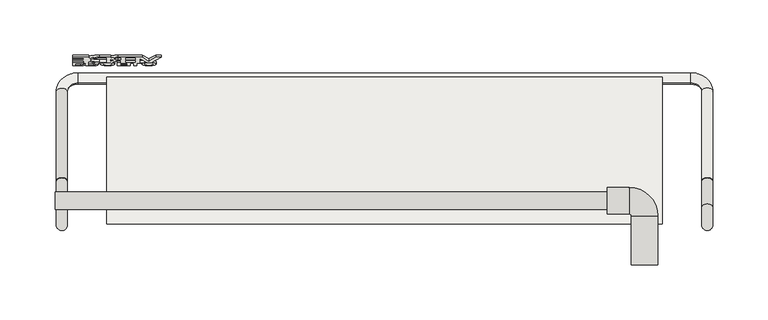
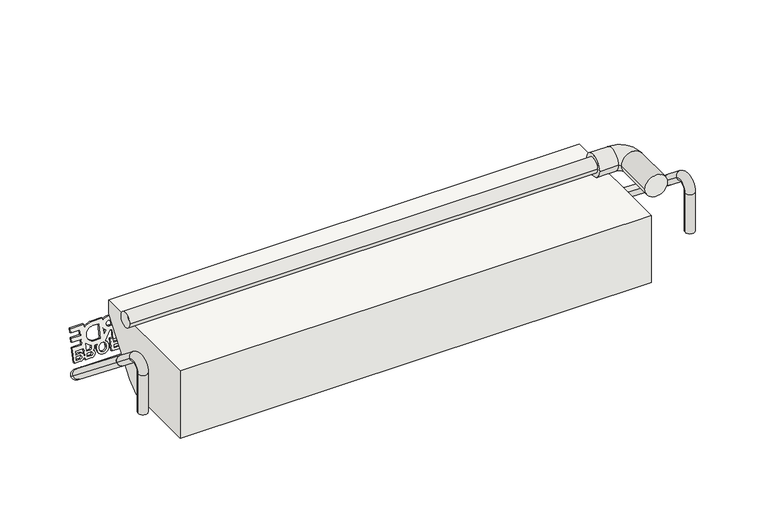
"""IFC4 building model written with IfcOpenShell, lengths in millimetres: covering geometry, panel VP Modulo prova ultima texture : panel VP Modulo prova ultima texture."""

import ifcopenshell
import ifcopenshell.guid

model = None  # the IFC model being written
_history = None  # IfcOwnerHistory: only IFC2X3 demands one
_inside = {}  # id of a spatial element -> (the spatial element, [elements in it])
_under = {}  # id of a project, library or spatial element -> (it, [spatial elements below it])
_declared = {}  # id of a project -> (the project, [libraries it declares])
_typed = {}  # id of a type object -> (the type object, [elements of that type])
_made_of = {}  # id of a material, layer set ... -> (it, [elements and type objects made of it])


def new_model(schema):
    """Start an empty IFC model of exactly this schema.

    Asked for "IFC4X3", IfcOpenShell would pick the latest addendum, in which some entities
    have other attributes; the version numbers below select the first issue.
    IFC2X3 requires an IfcOwnerHistory on every rooted entity: one is made here for all.
    """
    global model, _history
    if schema == "IFC4X3":
        model = ifcopenshell.file(schema_version=(4, 3, 0, 0))
    else:
        model = ifcopenshell.file(schema=schema)
    _inside.clear()
    _under.clear()
    _declared.clear()
    _typed.clear()
    _made_of.clear()
    _history = None
    if model.schema == "IFC2X3":
        org = make("IfcOrganization", Name="unknown")
        user = make(
            "IfcPersonAndOrganization",
            ThePerson=make("IfcPerson", FamilyName="unknown"),
            TheOrganization=org,
        )
        app = make(
            "IfcApplication",
            ApplicationDeveloper=org,
            Version="unknown",
            ApplicationFullName="unknown",
            ApplicationIdentifier="unknown",
        )
        _history = make(
            "IfcOwnerHistory",
            OwningUser=user,
            OwningApplication=app,
            ChangeAction="ADDED",
            CreationDate=0,
        )
    return model


def make(cls, **values):
    """One entity of the class cls with the attributes given. An attribute that is None is left unset."""
    return model.create_entity(
        cls, **{name: value for name, value in values.items() if value is not None}
    )


def rooted(cls, **values):
    """An entity with a GlobalId (a new one), such as an element, a storey or a relation."""
    return make(cls, GlobalId=ifcopenshell.guid.new(), OwnerHistory=_history, **values)


def si_unit(unit_type, name, prefix=None):
    """IfcSIUnit, for example si_unit("LENGTHUNIT", "METRE", prefix="MILLI")."""
    return make("IfcSIUnit", UnitType=unit_type, Prefix=prefix, Name=name)


def assignment(units):
    """IfcUnitAssignment: the units of a project."""
    return None if units is None else make("IfcUnitAssignment", Units=units)


def point(xyz):
    """IfcCartesianPoint."""
    return None if xyz is None else make("IfcCartesianPoint", Coordinates=xyz)


def direction(xyz):
    """IfcDirection."""
    return None if xyz is None else make("IfcDirection", DirectionRatios=xyz)


def frame(location, z_axis=None, x_axis=None):
    """IfcAxis2Placement3D, a coordinate frame: its origin and axes. An axis left out is left unset."""
    return make(
        "IfcAxis2Placement3D",
        Location=point(location),
        Axis=direction(z_axis),
        RefDirection=direction(x_axis),
    )


def frame_2d(location, x_axis=None):
    """IfcAxis2Placement2D, a coordinate frame in the plane: its origin and x axis."""
    return make(
        "IfcAxis2Placement2D", Location=point(location), RefDirection=direction(x_axis)
    )


def origin():
    """The frame at (0, 0, 0) with its axes left unset."""
    return frame((0.0, 0.0, 0.0))


def place(relative_to, where):
    """IfcLocalPlacement: puts the frame where relative to a parent placement (None: the world)."""
    return make(
        "IfcLocalPlacement", PlacementRelTo=relative_to, RelativePlacement=where
    )


def context(
    kind, dimensions, precision=None, world=None, true_north=None, identifier=None
):
    """IfcGeometricRepresentationContext, for example the 3D "Model" context."""
    return make(
        "IfcGeometricRepresentationContext",
        ContextIdentifier=identifier,
        ContextType=kind,
        CoordinateSpaceDimension=dimensions,
        Precision=precision,
        WorldCoordinateSystem=world,
        TrueNorth=true_north,
    )


def project(units=None, contexts=None):
    """IfcProject with its units and contexts."""
    return rooted(
        "IfcProject",
        Name="project",
        RepresentationContexts=contexts,
        UnitsInContext=assignment(units),
    )


def spatial(cls, under=None, at=None, **own):
    """A site, building, storey or space (cls), placed at a placement, below another one or the project."""
    s = rooted(cls, ObjectPlacement=at, **own)
    if under is not None:
        _under.setdefault(under.id(), (under, []))[1].append(s)
    return s


def polyline(points):
    """IfcPolyline through the points."""
    return make("IfcPolyline", Points=[point(p) for p in points])


def circle_curve(where, radius):
    """IfcCircle in the frame where."""
    return make("IfcCircle", Position=where, Radius=radius)


def ellipse_curve(where, semi_axis1, semi_axis2):
    """IfcEllipse in the frame where."""
    return make(
        "IfcEllipse", Position=where, SemiAxis1=semi_axis1, SemiAxis2=semi_axis2
    )


def trimmed(basis, trim1, trim2, sense, master):
    """IfcTrimmedCurve: the piece of a basis curve between two trims."""
    return make(
        "IfcTrimmedCurve",
        BasisCurve=basis,
        Trim1=trim1,
        Trim2=trim2,
        SenseAgreement=sense,
        MasterRepresentation=master,
    )


def segment(curve, same_sense, transition):
    """IfcCompositeCurveSegment."""
    return make(
        "IfcCompositeCurveSegment",
        Transition=transition,
        SameSense=same_sense,
        ParentCurve=curve,
    )


def composite_curve(segments, self_intersect=None):
    """IfcCompositeCurve: segments joined end to end."""
    return make("IfcCompositeCurve", Segments=segments, SelfIntersect=self_intersect)


def outline(outer, holes=None, kind="AREA"):
    """IfcArbitraryClosedProfileDef: a profile drawn as a closed curve; with holes, ...WithVoids."""
    if holes is None:
        return make("IfcArbitraryClosedProfileDef", ProfileType=kind, OuterCurve=outer)
    return make(
        "IfcArbitraryProfileDefWithVoids",
        ProfileType=kind,
        OuterCurve=outer,
        InnerCurves=holes,
    )


def extrude(swept, where, along, depth):
    """IfcExtrudedAreaSolid: the profile swept, set in the frame where, extruded along a direction by depth."""
    return make(
        "IfcExtrudedAreaSolid",
        SweptArea=swept,
        Position=where,
        ExtrudedDirection=direction(along),
        Depth=depth,
    )


def shape(context_of_items, identifier, shape_type, items):
    """IfcShapeRepresentation: the items that make up one representation, for example the "Body"."""
    return make(
        "IfcShapeRepresentation",
        ContextOfItems=context_of_items,
        RepresentationIdentifier=identifier,
        RepresentationType=shape_type,
        Items=items,
    )


def source(mapping_origin, context_of_items, identifier, shape_type, items):
    """IfcRepresentationMap: a shape defined once, which mapped items show again and again."""
    return make(
        "IfcRepresentationMap",
        MappingOrigin=mapping_origin,
        MappedRepresentation=shape(context_of_items, identifier, shape_type, items),
    )


def transform(
    local_origin,
    x_axis=None,
    y_axis=None,
    z_axis=None,
    scale=None,
    scale2=None,
    scale3=None,
    uniform=True,
):
    """IfcCartesianTransformationOperator3D, or its non-uniform kind. x_axis, y_axis, z_axis: its Axis1, 2, 3."""
    if uniform:
        return make(
            "IfcCartesianTransformationOperator3D",
            Axis1=direction(x_axis),
            Axis2=direction(y_axis),
            LocalOrigin=point(local_origin),
            Scale=scale,
            Axis3=direction(z_axis),
        )
    return make(
        "IfcCartesianTransformationOperator3DnonUniform",
        Axis1=direction(x_axis),
        Axis2=direction(y_axis),
        LocalOrigin=point(local_origin),
        Scale=scale,
        Axis3=direction(z_axis),
        Scale2=scale2,
        Scale3=scale3,
    )


def mapped(mapping_source, mapping_target):
    """IfcMappedItem: shows the shape of a source again, moved by a transform."""
    return make(
        "IfcMappedItem", MappingSource=mapping_source, MappingTarget=mapping_target
    )


def made_of(thing, what):
    """Note that an element or type object is made of a material, layer set ...; save() writes the relation."""
    if what is not None:
        _made_of.setdefault(what.id(), (what, []))[1].append(thing)
    return thing


def element(
    cls,
    number,
    at=None,
    inside=None,
    cuts=None,
    type_object=None,
    material=None,
    context=None,
    identifier="Body",
    shape_type=None,
    held_by="IfcProductDefinitionShape",
    body=None,
    shapes=None,
    **own,
):
    """One element of the class cls, such as IfcWall. Its Tag is "e" and its number.

    at: its placement. inside: the storey or other place that contains it. cuts: it is an
    opening in that element (IfcRelVoidsElement). A single representation is given by context,
    identifier, shape_type and body (its items); several are given by shapes. held_by: the class
    of the entity that holds the representations. save() writes the other relations.
    """
    e = rooted(cls, Tag="e%d" % number, ObjectPlacement=at, **own)
    if body is not None:
        shapes = [shape(context, identifier, shape_type, body)]
    if shapes is not None:
        e.Representation = make(held_by, Representations=shapes)
    if inside is not None:
        _inside.setdefault(inside.id(), (inside, []))[1].append(e)
    if cuts is not None:
        rooted(
            "IfcRelVoidsElement", RelatingBuildingElement=cuts, RelatedOpeningElement=e
        )
    if type_object is not None:
        _typed.setdefault(type_object.id(), (type_object, []))[1].append(e)
    return made_of(e, material)


def aggregate(whole, parts):
    """IfcRelAggregates: a whole, such as a stair, and the parts it consists of."""
    return rooted("IfcRelAggregates", RelatingObject=whole, RelatedObjects=parts)


def save(model, path):
    """Write the relations noted so far, then the file.

    IfcRelAggregates (storeys below a building ...), IfcRelContainedInSpatialStructure (elements
    in a storey), IfcRelDefinesByType, IfcRelAssociatesMaterial and IfcRelDeclares: one each for
    every whole, place, type object, material and project.
    """
    for whole, parts in _under.values():
        aggregate(whole, parts)
    for where, things in _inside.values():
        rooted(
            "IfcRelContainedInSpatialStructure",
            RelatedElements=things,
            RelatingStructure=where,
        )
    for kind, things in _typed.values():
        rooted("IfcRelDefinesByType", RelatedObjects=things, RelatingType=kind)
    for what, things in _made_of.values():
        rooted("IfcRelAssociatesMaterial", RelatedObjects=things, RelatingMaterial=what)
    for by, libraries in _declared.values():
        rooted("IfcRelDeclares", RelatingContext=by, RelatedDefinitions=libraries)
    model.write(path)


def plane_surface(at):
    """IfcPlane: the flat surface through the origin of the frame at, square to its z axis."""
    return make("IfcPlane", Position=at)


def cylinder_surface(at, radius):
    """IfcCylindricalSurface: all points at the distance radius from the z axis of the frame at."""
    return make("IfcCylindricalSurface", Position=at, Radius=radius)


def revolved_surface(curve, axis_point, axis_direction):
    """IfcSurfaceOfRevolution: the curve turned about the line through axis_point along axis_direction."""
    return make(
        "IfcSurfaceOfRevolution",
        SweptCurve=make("IfcArbitraryOpenProfileDef", ProfileType="CURVE", Curve=curve),
        AxisPosition=make("IfcAxis1Placement", Location=point(axis_point), Axis=direction(axis_direction)),
    )


def advanced_brep(points, edges, surfaces, faces):
    """IfcAdvancedBrep: a solid bounded by faces that lie on surfaces and meet in shared edges.

    An edge is (start, end): straight between two places in points (the first is 0);
    or (start, end, curve); or (start, end, curve, False) where it runs against its curve.
    A face is (place in surfaces, loops), or (place, loops, False) where it looks against
    its surface's normal. A loop lists edges by number (the first is 1), with a minus sign
    where the edge is run from its end to its start. The first loop is the outer one.
    """
    corners = [point(p) for p in points]
    vertices = [make("IfcVertexPoint", VertexGeometry=c) for c in corners]
    made = []
    for start, end, *more in edges:
        made.append(
            make(
                "IfcEdgeCurve",
                EdgeStart=vertices[start],
                EdgeEnd=vertices[end],
                EdgeGeometry=more[0] if more else make("IfcPolyline", Points=[corners[start], corners[end]]),
                SameSense=more[1] if len(more) > 1 else True,
            )
        )
    hull = []
    for where, loops, *sense in faces:
        bounds = []
        for j, loop in enumerate(loops):
            ring = [make("IfcOrientedEdge", EdgeElement=made[abs(k) - 1], Orientation=k > 0) for k in loop]
            bounds.append(
                make(
                    "IfcFaceOuterBound" if j == 0 else "IfcFaceBound",
                    Bound=make("IfcEdgeLoop", EdgeList=ring),
                    Orientation=True,
                )
            )
        hull.append(make("IfcAdvancedFace", Bounds=bounds, FaceSurface=surfaces[where], SameSense=sense[0] if sense else True))
    return make("IfcAdvancedBrep", Outer=make("IfcClosedShell", CfsFaces=hull))


def covering_7a5a7cfb(model_context):
    return source(origin(), model_context, "Body", "SolidModel", [
        extrude(outline(composite_curve([segment(polyline([(34.7220757, 1e-07), (58.7996812, 1e-07)]), True, "CONTINUOUS"), segment(trimmed(circle_curve(frame_2d((65.0642789, 0.6025231)), 6.293506), [point((58.7996812, 1e-07))], [point((63.4156114, 6.6762463))], False, "CARTESIAN"), True, "CONTINUOUS"), segment(trimmed(circle_curve(frame_2d((65.6666706, 0.6823429)), 6.4026671), [point((63.4156114, 6.6762463))], [point((68.2653756, -5.1692277))], False, "CARTESIAN"), True, "CONTINUOUS"), segment(trimmed(circle_curve(frame_2d((65.2033193, 0.2002614)), 6.1812298), [point((68.2653756, -5.1692277))], [point((64.2093265, -5.9005239))], False, "CARTESIAN"), True, "CONTINUOUS"), segment(polyline([(64.2093265, -5.9005239), (66.3168222, -11.0476865), (75.8016953, -7.1641235), (76.8622809, -9.7544045), (66.3136896, -14.0735049), (67.4636632, -16.8820993), (78.0122545, -12.5629989), (79.07284, -15.15328), (68.5242487, -19.4723803), (70.7348079, -24.8712558), (61.6931831, -28.5733316), (62.6270622, -30.8541559), (73.0748749, -33.0832315)]), True, "CONTINUOUS"), segment(trimmed(circle_curve(frame_2d((79.2445531, -34.0648778)), 6.247284), [point((73.0748749, -33.0832315))], [point((77.6263487, -28.0308102))], False, "CARTESIAN"), True, "CONTINUOUS"), segment(trimmed(circle_curve(frame_2d((79.8774079, -34.0247136)), 6.4026671), [point((77.6263487, -28.0308102))], [point((82.4790997, -39.8749568))], False, "CARTESIAN"), True, "CONTINUOUS"), segment(trimmed(circle_curve(frame_2d((79.4067187, -34.4842118)), 6.2048092), [point((82.4790997, -39.8749568))], [point((77.0112196, -40.2079554))], False, "CARTESIAN"), True, "CONTINUOUS"), segment(polyline([(77.0112196, -40.2079554), (78.1993614, -43.1097684)]), True, "CONTINUOUS"), segment(trimmed(circle_curve(frame_2d((66.5130173, -47.6019204)), 12.5199867), [point((78.1993614, -43.1097684))], [point((78.4709527, -43.8927629))], False, "CARTESIAN"), True, "CONTINUOUS"), segment(polyline([(78.4709527, -43.8927629), (79.5384705, -43.4513168)]), True, "CONTINUOUS"), segment(trimmed(circle_curve(frame_2d((81.1236563, -46.5289178)), 3.4618554), [point((79.5384705, -43.4513168))], [point((83.2640667, -43.8080566))], False, "CARTESIAN"), True, "CONTINUOUS"), segment(trimmed(circle_curve(frame_2d((86.9930545, -44.5041076)), 3.7933939), [point((83.2640667, -43.8080566))], [point((90.5427254, -43.1663205))], False, "CARTESIAN"), True, "CONTINUOUS"), segment(polyline([(90.5427254, -43.1663205), (93.2835773, -49.8603364), (82.734986, -54.1794368), (86.0955187, -62.3869066), (89.2825225, -61.0819941), (87.602256, -56.9782588)]), True, "CONTINUOUS"), segment(trimmed(circle_curve(frame_2d((91.2496311, -55.4763574)), 3.9444966), [point((87.602256, -56.9782588))], [point((87.6394876, -53.887044))], False, "CARTESIAN"), True, "CONTINUOUS"), segment(trimmed(circle_curve(frame_2d((91.0795376, -55.4029608)), 3.7592483), [point((87.6394876, -53.887044))], [point((89.8068056, -51.8657159))], False, "CARTESIAN"), True, "CONTINUOUS"), segment(trimmed(circle_curve(frame_2d((91.3826275, -55.3791794)), 3.8506675), [point((89.8068056, -51.8657159))], [point((94.9638436, -53.9640713))], False, "CARTESIAN"), True, "CONTINUOUS"), segment(polyline([(94.9638436, -53.9640713), (97.7046956, -60.6580873), (83.1186526, -66.6303145), (79.3291227, -57.3750995), (74.3249247, -59.4240587), (78.1144546, -68.6792737), (74.0770029, -70.3324005), (70.287473, -61.0771855), (65.283275, -63.1261447), (69.0728049, -72.3813597), (65.0353532, -74.0344865), (59.5536494, -60.6464546), (63.573194, -59.0006598)]), True, "CONTINUOUS"), segment(trimmed(circle_curve(frame_2d((67.4307017, -47.2531671)), 12.364625), [point((63.573194, -59.0006598))], [point((55.9786181, -51.9151122))], False, "CARTESIAN"), True, "CONTINUOUS"), segment(polyline([(55.9786181, -51.9151122), (51.9745895, -42.1360245), (54.8949193, -40.940301)]), True, "CONTINUOUS"), segment(trimmed(circle_curve(frame_2d((56.8950263, -33.2916254)), 7.9058629), [point((54.8949193, -40.940301))], [point((49.6285765, -36.4063284))], False, "CARTESIAN"), True, "CONTINUOUS"), segment(polyline([(49.6285765, -36.4063284), (41.306864, -16.0821087), (53.1289126, -4.45118), (36.5446028, -4.4511801), (34.7220757, 1e-07)]), True, "CONTINUOUS")], self_intersect=False), holes=[composite_curve([segment(polyline([(91.3698144, -60.2273564), (94.5568181, -58.9224439), (93.0429626, -55.2251362)]), True, "CONTINUOUS"), segment(trimmed(circle_curve(frame_2d((91.4494607, -55.8775925)), 1.7219023), [point((93.0429626, -55.2251362))], [point((89.8559588, -56.5300487))], True, "CARTESIAN"), True, "CONTINUOUS"), segment(polyline([(89.8559588, -56.5300487), (91.3698144, -60.2273564)]), True, "CONTINUOUS")], self_intersect=False), composite_curve([segment(polyline([(77.6536646, -53.2354383), (84.8614042, -50.2842432), (83.4804082, -46.9114198)]), True, "CONTINUOUS"), segment(trimmed(circle_curve(frame_2d((82.0055188, -47.9798171)), 1.8212006), [point((83.4804082, -46.9114198))], [point((81.4459172, -46.2467223))], True, "CARTESIAN"), True, "CONTINUOUS"), segment(polyline([(81.4459172, -46.2467223), (79.005401, -46.7813864)]), True, "CONTINUOUS"), segment(trimmed(circle_curve(frame_2d((66.800009, -47.5936694)), 12.2323913), [point((79.005401, -46.7813864))], [point((77.6536646, -53.2354383))], False, "CARTESIAN"), True, "CONTINUOUS")], self_intersect=False), composite_curve([segment(polyline([(80.0469884, -37.8463889), (81.818283, -37.1211357)]), True, "CONTINUOUS"), segment(trimmed(circle_curve(frame_2d((80.3714598, -33.8224141)), 3.6020635), [point((81.818283, -37.1211357))], [point((79.0874461, -30.4569764))], True, "CARTESIAN"), True, "CONTINUOUS"), segment(polyline([(79.0874461, -30.4569764), (77.318043, -31.1814551)]), True, "CONTINUOUS"), segment(trimmed(circle_curve(frame_2d((78.7640582, -34.4805345)), 3.6020668), [point((77.318043, -31.1814551))], [point((80.0469884, -37.8463889))], True, "CARTESIAN"), True, "CONTINUOUS")], self_intersect=False), composite_curve([segment(polyline([(64.8767089, 4.25008), (63.1073057, 3.5256013)]), True, "CONTINUOUS"), segment(trimmed(circle_curve(frame_2d((64.5533209, 0.2265218)), 3.6020668), [point((63.1073057, 3.5256013))], [point((65.8362511, -3.1393325))], True, "CARTESIAN"), True, "CONTINUOUS"), segment(polyline([(65.8362511, -3.1393325), (67.6075457, -2.4140793)]), True, "CONTINUOUS"), segment(trimmed(circle_curve(frame_2d((66.1607226, 0.8846424)), 3.6020635), [point((67.6075457, -2.4140793))], [point((64.8767089, 4.25008))], True, "CARTESIAN"), True, "CONTINUOUS")], self_intersect=False), composite_curve([segment(polyline([(49.3862171, -14.3776131), (62.966359, -8.8172502), (61.7031824, -5.7321785), (62.543491, -5.3881158)]), True, "CONTINUOUS"), segment(trimmed(circle_curve(frame_2d((65.2914897, 0.489271)), 6.4880792), [point((62.543491, -5.3881158))], [point((60.2929854, -3.647168))], False, "CARTESIAN"), True, "CONTINUOUS"), segment(polyline([(60.2929854, -3.647168), (49.3862171, -14.3776131)]), True, "CONTINUOUS")], self_intersect=False), polyline([(47.5988019, -19.9351411), (50.9593346, -28.1426109), (55.9635327, -26.0936517), (52.603, -17.8861818), (47.5988019, -19.9351411)]), polyline([(60.0009843, -24.4405249), (65.0051824, -22.3915657), (61.6446497, -14.1840958), (56.6404516, -16.2330551), (60.0009843, -24.4405249)]), composite_curve([segment(polyline([(52.6514048, -32.2754702), (53.692025, -34.8169896)]), True, "CONTINUOUS"), segment(trimmed(circle_curve(frame_2d((56.226554, -33.8697215)), 2.7057631), [point((53.692025, -34.8169896))], [point((58.6823171, -32.7337722))], True, "CARTESIAN"), True, "CONTINUOUS"), segment(polyline([(58.6823171, -32.7337722), (57.6557065, -30.2264686), (52.6514048, -32.2754702)]), True, "CONTINUOUS")], self_intersect=False), composite_curve([segment(polyline([(62.0018449, -38.0303841), (66.4600603, -36.2049764), (63.0935891, -35.4866796)]), True, "CONTINUOUS"), segment(trimmed(circle_curve(frame_2d((53.8245828, -33.0146099)), 9.5929977), [point((63.0935891, -35.4866796))], [point((62.0018449, -38.0303841))], False, "CARTESIAN"), True, "CONTINUOUS")], self_intersect=False), composite_curve([segment(polyline([(57.7042151, -44.6157146), (60.0160697, -50.2619853)]), True, "CONTINUOUS"), segment(trimmed(circle_curve(frame_2d((67.1061304, -47.5504315)), 7.5908816), [point((60.0160697, -50.2619853))], [point((74.0619175, -44.51094))], True, "CARTESIAN"), True, "CONTINUOUS"), segment(polyline([(74.0619175, -44.51094), (71.7500629, -38.8646693), (57.7042151, -44.6157146)]), True, "CONTINUOUS")], self_intersect=False), composite_curve([segment(polyline([(86.9486961, -49.4296056), (90.1356999, -48.124693), (88.6218444, -44.4273853)]), True, "CONTINUOUS"), segment(trimmed(circle_curve(frame_2d((87.0283424, -45.0798416)), 1.7219023), [point((88.6218444, -44.4273853))], [point((85.4348406, -45.7322979))], True, "CARTESIAN"), True, "CONTINUOUS"), segment(polyline([(85.4348406, -45.7322979), (86.9486961, -49.4296056)]), True, "CONTINUOUS")], self_intersect=False)]), frame((-189.083657, 210.3688908, 302.3284791), z_axis=(0.0, -0.9769248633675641, 0.21358326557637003), x_axis=(-0.3789159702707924, -0.19765659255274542, -0.9040766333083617)), (0.0, 0.0, 1.0), 2.0),
        extrude(outline(polyline([(76.2116946, -23.2064962), (79.3986984, -21.9015837), (77.1881392, -16.5027082), (79.2754311, -15.6480706), (82.5465758, -23.6372272), (70.9744162, -28.3754256), (69.9138306, -25.7851445), (74.1244027, -24.0611338), (71.9138436, -18.6622584), (74.0011355, -17.8076208), (76.2116946, -23.2064962)])), frame((-189.083657, 210.3688908, 302.3284791), z_axis=(0.0, -0.9769248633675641, 0.21358326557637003), x_axis=(-0.3789159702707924, -0.19765659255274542, -0.9040766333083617)), (0.0, 0.0, 1.0), 2.0),
        advanced_brep(
        [(-298.2404059, 63.5015434, 366.038463), (-298.2404059, 79.5015434, 366.038463), (201.5404059, 63.5015434, 366.038463), (201.5404059, 79.5015434, 366.038463), (201.5404059, 59.5015434, 366.038463), (201.5404059, 83.5015434, 366.038463), (221.5404059, 59.5015434, 366.038463), (221.5404059, 83.5015434, 366.038463), (223.5404059, 57.5015434, 366.038463), (247.5404059, 57.5015434, 366.038463), (223.5404059, 13.5015434, 366.038463), (247.5404059, 13.5015434, 366.038463)],
        [
            (0, 1, circle_curve(frame((-298.2404059, 71.5015434, 366.038463), z_axis=(-1.0, 0.0, 0.0), x_axis=(0.0, 1.0, 0.0)), 8.0)),
            (1, 0, circle_curve(frame((-298.2404059, 71.5015434, 366.038463), z_axis=(-1.0, 0.0, 0.0), x_axis=(0.0, 1.0, 0.0)), 8.0)),
            (0, 2),
            (2, 3, circle_curve(frame((201.5404059, 71.5015434, 366.038463), z_axis=(-1.0, 0.0, 0.0), x_axis=(0.0, 1.0, 0.0)), 8.0)),
            (3, 1),
            (3, 2, circle_curve(frame((201.5404059, 71.5015434, 366.038463), z_axis=(-1.0, 0.0, 0.0), x_axis=(0.0, 1.0, 0.0)), 8.0)),
            (4, 5, circle_curve(frame((201.5404059, 71.5015434, 366.038463), z_axis=(-1.0, 0.0, 0.0), x_axis=(0.0, 1.0, 0.0)), 12.0)),
            (5, 4, circle_curve(frame((201.5404059, 71.5015434, 366.038463), z_axis=(-1.0, 0.0, 0.0), x_axis=(0.0, 1.0, 0.0)), 12.0)),
            (4, 6),
            (6, 7, circle_curve(frame((221.5404059, 71.5015434, 366.038463), z_axis=(-1.0, 0.0, 0.0), x_axis=(0.0, 1.0, 0.0)), 12.0)),
            (7, 5),
            (7, 6, circle_curve(frame((221.5404059, 71.5015434, 366.038463), z_axis=(-1.0, 0.0, 0.0), x_axis=(0.0, 1.0, 0.0)), 12.0)),
            (6, 8, circle_curve(frame((221.5404059, 57.5015434, 366.038463), z_axis=(0.0, 0.0, -1.0), x_axis=(0.0, 1.0, 0.0)), 2.0)),
            (8, 9, circle_curve(frame((235.5404059, 57.5015434, 366.038463), z_axis=(0.0, 1.0, 0.0), x_axis=(1.0, 0.0, 0.0)), 12.0)),
            (9, 7, circle_curve(frame((221.5404059, 57.5015434, 366.038463), z_axis=(0.0, 0.0, 1.0), x_axis=(0.0, 1.0, 0.0)), 26.0)),
            (9, 8, circle_curve(frame((235.5404059, 57.5015434, 366.038463), z_axis=(0.0, 1.0, 0.0), x_axis=(1.0, 0.0, 0.0)), 12.0)),
            (10, 11, circle_curve(frame((235.5404059, 13.5015434, 366.038463), z_axis=(0.0, -1.0, 0.0), x_axis=(1.0, 0.0, 0.0)), 12.0)),
            (11, 10, circle_curve(frame((235.5404059, 13.5015434, 366.038463), z_axis=(0.0, -1.0, 0.0), x_axis=(1.0, 0.0, 0.0)), 12.0)),
            (8, 10),
            (11, 9),
        ],
        [
            plane_surface(frame((-298.2404059, 63.5015434, 366.038463), z_axis=(-1.0, 0.0, 0.0), x_axis=(0.0, 0.0, 1.0))),
            cylinder_surface(frame((-298.2404059, 71.5015434, 366.038463), z_axis=(-1.0, 0.0, 0.0), x_axis=(0.0, 1.0, 0.0)), 8.0),
            plane_surface(frame((201.5404059, 63.5015434, 366.038463), z_axis=(-1.0, 0.0, 0.0), x_axis=(0.0, 0.0, 1.0))),
            cylinder_surface(frame((201.5404059, 71.5015434, 366.038463), z_axis=(-1.0, 0.0, 0.0), x_axis=(0.0, 1.0, 0.0)), 12.0),
            revolved_surface(trimmed(ellipse_curve(frame((221.5404059, 71.5015434, 366.038463), z_axis=(-1.0, 0.0, 0.0), x_axis=(0.0, 1.0, 0.0)), 12.0, 12.0), [point((221.5404059, 59.5015434, 366.038463))], [point((221.5404059, 83.5015434, 366.038463))], True, "CARTESIAN"), (221.5404059, 57.5015434, 366.038463), (0.0, 0.0, -1.0)),
            revolved_surface(trimmed(ellipse_curve(frame((221.5404059, 71.5015434, 366.038463), z_axis=(-1.0, 0.0, 0.0), x_axis=(0.0, 1.0, 0.0)), 12.0, 12.0), [point((221.5404059, 83.5015434, 366.038463))], [point((221.5404059, 59.5015434, 366.038463))], True, "CARTESIAN"), (221.5404059, 57.5015434, 366.038463), (0.0, 0.0, -1.0)),
            plane_surface(frame((227.5404059, 13.5015434, 366.038463), z_axis=(0.0, -1.0, 0.0), x_axis=(0.0, 0.0, 1.0))),
            cylinder_surface(frame((235.5404059, 57.5015434, 366.038463), z_axis=(0.0, 1.0, 0.0), x_axis=(1.0, 0.0, 0.0)), 12.0),
        ],
        [
            (0, [[1, 2]]),
            (1, [[-1, 3, 4, 5]]),
            (1, [[-2, -5, 6, -3]]),
            (2, [[7, 8], [-4, -6]]),
            (3, [[-7, 9, 10, 11]]),
            (3, [[-8, -11, 12, -9]]),
            (4, [[-10, 13, 14, 15]]),
            (5, [[-12, -15, 16, -13]]),
            (6, [[17, 18]]),
            (7, [[-14, 19, -18, 20]]),
            (7, [[-16, -20, -17, -19]]),
        ],
    ),
        advanced_brep(
        [(297.2404059, 89.2250572, 306.8404048), (287.2404059, 89.2251428, 306.8405128), (297.2404059, 170.6491384, 242.3205598), (287.2404059, 170.6492239, 242.3206678), (277.2404059, 178.4869122, 236.1101411), (277.2404059, 186.324515, 229.8995064), (-277.2404059, 186.324515, 229.8995064), (-277.2404059, 178.4869122, 236.1101411), (-287.2404059, 170.6492239, 242.3206678), (-297.2404059, 170.6491384, 242.3205598), (-297.2404059, 89.2250494, 306.840411), (-287.2404059, 89.225135, 306.840519)],
        [
            (0, 1, circle_curve(frame((292.2404059, 89.2250572, 306.8404048), z_axis=(0.0, -0.7837688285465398, 0.6210526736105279), x_axis=(1.0, 0.0, 0.0)), 5.0)),
            (1, 0, circle_curve(frame((292.2404059, 89.2250572, 306.8404048), z_axis=(0.0, -0.7837688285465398, 0.6210526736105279), x_axis=(1.0, 0.0, 0.0)), 5.0)),
            (0, 2),
            (2, 3, circle_curve(frame((292.2404059, 170.6491384, 242.3205598), z_axis=(0.0, -0.7837688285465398, 0.6210526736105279), x_axis=(1.0, 0.0, 0.0)), 5.0)),
            (3, 1),
            (3, 2, circle_curve(frame((292.2404059, 170.6491384, 242.3205598), z_axis=(0.0, -0.7837688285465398, 0.6210526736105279), x_axis=(1.0, 0.0, 0.0)), 5.0)),
            (4, 3, circle_curve(frame((277.2404059, 170.6492239, 242.3206678), z_axis=(0.0, -0.6210526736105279, -0.7837688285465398), x_axis=(1.0, 0.0, 0.0)), 10.0)),
            (2, 5, circle_curve(frame((277.2404059, 170.6491384, 242.3205598), z_axis=(0.0, 0.6210526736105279, 0.7837688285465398), x_axis=(1.0, 0.0, 0.0)), 20.0)),
            (5, 4, circle_curve(frame((277.2404059, 182.4056708, 233.0047697), z_axis=(1.0, 0.0, 0.0), x_axis=(0.0, 0.7837688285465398, -0.6210526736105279)), 5.0)),
            (4, 5, circle_curve(frame((277.2404059, 182.4056708, 233.0047697), z_axis=(1.0, 0.0, 0.0), x_axis=(0.0, 0.7837688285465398, -0.6210526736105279)), 5.0)),
            (5, 6),
            (6, 7, circle_curve(frame((-277.2404059, 182.4056708, 233.0047697), z_axis=(1.0, 0.0, 0.0), x_axis=(0.0, 0.7837688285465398, -0.6210526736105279)), 5.0)),
            (7, 4),
            (7, 6, circle_curve(frame((-277.2404059, 182.4056708, 233.0047697), z_axis=(1.0, 0.0, 0.0), x_axis=(0.0, 0.7837688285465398, -0.6210526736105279)), 5.0)),
            (8, 7, circle_curve(frame((-277.2404059, 170.6492239, 242.3206678), z_axis=(0.0, -0.6210526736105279, -0.7837688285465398), x_axis=(0.0, 0.7837688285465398, -0.6210526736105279)), 10.0)),
            (6, 9, circle_curve(frame((-277.2404059, 170.6491384, 242.3205598), z_axis=(0.0, 0.6210526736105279, 0.7837688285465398), x_axis=(0.0, 0.7837688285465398, -0.6210526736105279)), 20.0)),
            (9, 8, circle_curve(frame((-292.2404059, 170.6491384, 242.3205598), z_axis=(0.0, 0.7837688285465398, -0.6210526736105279), x_axis=(-1.0000000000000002, 0.0, 0.0)), 5.0)),
            (8, 9, circle_curve(frame((-292.2404059, 170.6491384, 242.3205598), z_axis=(0.0, 0.7837688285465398, -0.6210526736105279), x_axis=(-1.0000000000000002, 0.0, 0.0)), 5.0)),
            (10, 11, circle_curve(frame((-292.2404059, 89.2250494, 306.840411), z_axis=(0.0, -0.7837688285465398, 0.6210526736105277), x_axis=(-1.0, 0.0, 0.0)), 5.0)),
            (11, 10, circle_curve(frame((-292.2404059, 89.2250494, 306.840411), z_axis=(0.0, -0.7837688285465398, 0.6210526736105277), x_axis=(-1.0, 0.0, 0.0)), 5.0)),
            (9, 10),
            (11, 8),
        ],
        [
            plane_surface(frame((287.2404059, 92.3304015, 310.7593511), z_axis=(0.0, -0.7837688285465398, 0.6210526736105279), x_axis=(0.0, -0.6210526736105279, -0.7837688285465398))),
            cylinder_surface(frame((292.2404059, 89.2250572, 306.8404048), z_axis=(0.0, -0.7837688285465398, 0.6210526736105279), x_axis=(1.0, 0.0, 0.0)), 5.0),
            revolved_surface(trimmed(ellipse_curve(frame((292.2404059, 170.6491384, 242.3205598), z_axis=(0.0, -0.7837688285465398, 0.6210526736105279), x_axis=(1.0, 0.0, 0.0)), 5.0, 5.0), [point((297.2404059, 170.6491384, 242.3205598))], [point((287.2404059, 170.6492239, 242.3206678))], True, "CARTESIAN"), (277.2404059, 173.7544827, 246.2395061), (0.0, 0.6210526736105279, 0.7837688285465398)),
            revolved_surface(trimmed(ellipse_curve(frame((292.2404059, 170.6491384, 242.3205598), z_axis=(0.0, -0.7837688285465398, 0.6210526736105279), x_axis=(1.0, 0.0, 0.0)), 5.0, 5.0), [point((287.2404059, 170.6492239, 242.3206678))], [point((297.2404059, 170.6491384, 242.3205598))], True, "CARTESIAN"), (277.2404059, 173.7544827, 246.2395061), (0.0, 0.6210526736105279, 0.7837688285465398)),
            cylinder_surface(frame((277.2404059, 182.4056708, 233.0047697), z_axis=(1.0000000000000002, 0.0, 0.0), x_axis=(0.0, 0.7837688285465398, -0.6210526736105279)), 5.0),
            revolved_surface(trimmed(ellipse_curve(frame((-277.2404059, 182.4056708, 233.0047697), z_axis=(1.0000000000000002, 0.0, 0.0), x_axis=(0.0, 0.7837688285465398, -0.6210526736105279)), 5.0, 5.0), [point((-277.2404059, 186.324515, 229.8995064))], [point((-277.2404059, 178.4869122, 236.1101411))], True, "CARTESIAN"), (-277.2404059, 173.7544827, 246.2395061), (0.0, 0.6210526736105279, 0.7837688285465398)),
            revolved_surface(trimmed(ellipse_curve(frame((-277.2404059, 182.4056708, 233.0047697), z_axis=(1.0000000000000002, 0.0, 0.0), x_axis=(0.0, 0.7837688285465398, -0.6210526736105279)), 5.0, 5.0), [point((-277.2404059, 178.4869122, 236.1101411))], [point((-277.2404059, 186.324515, 229.8995064))], True, "CARTESIAN"), (-277.2404059, 173.7544827, 246.2395061), (0.0, 0.6210526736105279, 0.7837688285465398)),
            plane_surface(frame((-287.2404059, 92.3303937, 310.7593573), z_axis=(0.0, -0.7837688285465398, 0.6210526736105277), x_axis=(0.0, -0.6210526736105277, -0.7837688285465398))),
            cylinder_surface(frame((-292.2404059, 170.6491384, 242.3205598), z_axis=(0.0, 0.7837688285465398, -0.6210526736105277), x_axis=(-1.0, 0.0, 0.0)), 5.0),
        ],
        [
            (0, [[1, 2]]),
            (1, [[-1, 3, 4, 5]]),
            (1, [[-2, -5, 6, -3]]),
            (2, [[7, -4, 8, 9]]),
            (3, [[-8, -6, -7, 10]]),
            (4, [[-9, 11, 12, 13]]),
            (4, [[-10, -13, 14, -11]]),
            (5, [[15, -12, 16, 17]]),
            (6, [[-16, -14, -15, 18]]),
            (7, [[19, 20]]),
            (8, [[-17, 21, -20, 22]]),
            (8, [[-18, -22, -19, -21]]),
        ],
    ),
        advanced_brep(
        [(-287.2404059, 89.225135, 306.840519), (-297.2404059, 89.225135, 306.840519), (-297.2404059, 65.7120701, 325.4720992), (-287.2404059, 65.7120701, 325.4720992), (-287.2404059, 49.5015434, 317.6344109), (-297.2404059, 49.5015434, 317.6344109), (-287.2404059, 49.5015434, 273.3322656), (-297.2404059, 49.5015434, 273.3322656)],
        [
            (0, 1, circle_curve(frame((-292.2404059, 89.225135, 306.840519), z_axis=(0.0, 0.7837688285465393, -0.6210526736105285), x_axis=(-1.0, 0.0, 0.0)), 5.0)),
            (1, 0, circle_curve(frame((-292.2404059, 89.225135, 306.840519), z_axis=(0.0, 0.7837688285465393, -0.6210526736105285), x_axis=(-1.0, 0.0, 0.0)), 5.0)),
            (1, 2),
            (2, 3, circle_curve(frame((-292.2404059, 65.7120701, 325.4720992), z_axis=(0.0, 0.7837688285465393, -0.6210526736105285), x_axis=(-1.0, 0.0, 0.0)), 5.0)),
            (3, 0),
            (3, 2, circle_curve(frame((-292.2404059, 65.7120701, 325.4720992), z_axis=(0.0, 0.7837688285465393, -0.6210526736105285), x_axis=(-1.0, 0.0, 0.0)), 5.0)),
            (4, 3, circle_curve(frame((-287.2404059, 59.5015434, 317.6344109), z_axis=(-1.0, 0.0, 0.0), x_axis=(0.0, 0.6210526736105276, 0.78376882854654)), 10.0)),
            (2, 5, circle_curve(frame((-297.2404059, 59.5015434, 317.6344109), z_axis=(1.0, 0.0, 0.0), x_axis=(0.0, 0.6210526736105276, 0.78376882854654)), 10.0)),
            (5, 4, circle_curve(frame((-292.2404059, 49.5015434, 317.6344109), z_axis=(0.0, 0.0, 1.0), x_axis=(-1.0, 0.0, 0.0)), 5.0)),
            (4, 5, circle_curve(frame((-292.2404059, 49.5015434, 317.6344109), z_axis=(0.0, 0.0, 1.0), x_axis=(-1.0, 0.0, 0.0)), 5.0)),
            (6, 7, circle_curve(frame((-292.2404059, 49.5015434, 273.3322656), z_axis=(0.0, 0.0, -1.0), x_axis=(-1.0, 0.0, 0.0)), 5.0)),
            (7, 6, circle_curve(frame((-292.2404059, 49.5015434, 273.3322656), z_axis=(0.0, 0.0, -1.0), x_axis=(-1.0, 0.0, 0.0)), 5.0)),
            (5, 7),
            (6, 4),
        ],
        [
            plane_surface(frame((-287.2404059, 89.225135, 306.840519), z_axis=(0.0, 0.7837688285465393, -0.6210526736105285), x_axis=(-1.0, 0.0, 0.0))),
            cylinder_surface(frame((-292.2404059, 89.225135, 306.840519), z_axis=(0.0, 0.7837688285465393, -0.6210526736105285), x_axis=(-1.0, 0.0, 0.0)), 5.0),
            revolved_surface(trimmed(ellipse_curve(frame((-292.2404059, 65.7120701, 325.4720992), z_axis=(0.0, 0.78376882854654, -0.6210526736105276), x_axis=(-1.0, 0.0, 0.0)), 5.0, 5.0), [point((-297.2404059, 65.7120701, 325.4720992))], [point((-287.2404059, 65.7120701, 325.4720992))], True, "CARTESIAN"), (-287.2404059, 59.5015434, 317.6344109), (1.0, 0.0, 0.0)),
            revolved_surface(trimmed(ellipse_curve(frame((-292.2404059, 65.7120701, 325.4720992), z_axis=(0.0, 0.78376882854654, -0.6210526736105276), x_axis=(-1.0, 0.0, 0.0)), 5.0, 5.0), [point((-287.2404059, 65.7120701, 325.4720992))], [point((-297.2404059, 65.7120701, 325.4720992))], True, "CARTESIAN"), (-287.2404059, 59.5015434, 317.6344109), (1.0, 0.0, 0.0)),
            plane_surface(frame((-287.2404059, 49.5015434, 273.3322656), z_axis=(0.0, 0.0, -1.0), x_axis=(-1.0, 0.0, 0.0))),
            cylinder_surface(frame((-292.2404059, 49.5015434, 317.6344109), z_axis=(0.0, 0.0, 1.0), x_axis=(-1.0, 0.0, 0.0)), 5.0),
        ],
        [
            (0, [[1, 2]]),
            (1, [[-2, 3, 4, 5]]),
            (1, [[-1, -5, 6, -3]]),
            (2, [[7, -4, 8, 9]]),
            (3, [[-8, -6, -7, 10]]),
            (4, [[11, 12]]),
            (5, [[-9, 13, -11, 14]]),
            (5, [[-10, -14, -12, -13]]),
        ],
    ),
        advanced_brep(
        [(287.2404059, 89.2251242, 306.8404893), (297.2404059, 89.2251242, 306.8404893), (287.2404059, 65.7120779, 325.472093), (297.2404059, 65.7120779, 325.472093), (297.2404059, 49.5015434, 317.6344109), (287.2404059, 49.5015434, 317.6344109), (287.2404059, 49.5015434, 273.3322656), (297.2404059, 49.5015434, 273.3322656)],
        [
            (0, 1, circle_curve(frame((292.2404059, 89.2251242, 306.8404893), z_axis=(0.0, 0.7837682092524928, -0.621053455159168), x_axis=(1.0, 0.0, 0.0)), 5.0)),
            (1, 0, circle_curve(frame((292.2404059, 89.2251242, 306.8404893), z_axis=(0.0, 0.7837682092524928, -0.621053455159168), x_axis=(1.0, 0.0, 0.0)), 5.0)),
            (0, 2),
            (2, 3, circle_curve(frame((292.2404059, 65.7120779, 325.472093), z_axis=(0.0, 0.7837682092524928, -0.621053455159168), x_axis=(1.0, 0.0, 0.0)), 5.0)),
            (3, 1),
            (3, 2, circle_curve(frame((292.2404059, 65.7120779, 325.472093), z_axis=(0.0, 0.7837682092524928, -0.621053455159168), x_axis=(1.0, 0.0, 0.0)), 5.0)),
            (4, 3, circle_curve(frame((297.2404059, 59.5015434, 317.6344109), z_axis=(-1.0, 0.0, 0.0), x_axis=(0.0, 0.6210534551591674, 0.7837682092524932)), 10.0)),
            (2, 5, circle_curve(frame((287.2404059, 59.5015434, 317.6344109), z_axis=(1.0, 0.0, 0.0), x_axis=(0.0, 0.6210534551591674, 0.7837682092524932)), 10.0)),
            (5, 4, circle_curve(frame((292.2404059, 49.5015434, 317.6344109), z_axis=(0.0, 0.0, 1.0), x_axis=(1.0, 0.0, 0.0)), 5.0)),
            (4, 5, circle_curve(frame((292.2404059, 49.5015434, 317.6344109), z_axis=(0.0, 0.0, 1.0), x_axis=(1.0, 0.0, 0.0)), 5.0)),
            (6, 7, circle_curve(frame((292.2404059, 49.5015434, 273.3322656), z_axis=(0.0, 0.0, -1.0), x_axis=(1.0, 0.0, 0.0)), 5.0)),
            (7, 6, circle_curve(frame((292.2404059, 49.5015434, 273.3322656), z_axis=(0.0, 0.0, -1.0), x_axis=(1.0, 0.0, 0.0)), 5.0)),
            (5, 6),
            (7, 4),
        ],
        [
            plane_surface(frame((287.2404059, 89.2251242, 306.8404893), z_axis=(0.0, 0.7837682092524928, -0.621053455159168), x_axis=(1.0, 0.0, 0.0))),
            cylinder_surface(frame((292.2404059, 89.2251242, 306.8404893), z_axis=(0.0, 0.7837682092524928, -0.621053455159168), x_axis=(1.0, 0.0, 0.0)), 5.0),
            revolved_surface(trimmed(ellipse_curve(frame((292.2404059, 65.7120779, 325.472093), z_axis=(0.0, 0.7837682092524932, -0.6210534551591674), x_axis=(1.0, 0.0, 0.0)), 5.0, 5.0), [point((287.2404059, 65.7120779, 325.472093))], [point((297.2404059, 65.7120779, 325.472093))], True, "CARTESIAN"), (287.2404059, 59.5015434, 317.6344109), (1.0, 0.0, 0.0)),
            revolved_surface(trimmed(ellipse_curve(frame((292.2404059, 65.7120779, 325.472093), z_axis=(0.0, 0.7837682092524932, -0.6210534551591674), x_axis=(1.0, 0.0, 0.0)), 5.0, 5.0), [point((297.2404059, 65.7120779, 325.472093))], [point((287.2404059, 65.7120779, 325.472093))], True, "CARTESIAN"), (287.2404059, 59.5015434, 317.6344109), (1.0, 0.0, 0.0)),
            plane_surface(frame((287.2404059, 49.5015434, 273.3322656), z_axis=(0.0, 0.0, -1.0), x_axis=(1.0, 0.0, 0.0))),
            cylinder_surface(frame((292.2404059, 49.5015434, 317.6344109), z_axis=(0.0, 0.0, 1.0), x_axis=(1.0, 0.0, 0.0)), 5.0),
        ],
        [
            (0, [[1, 2]]),
            (1, [[-1, 3, 4, 5]]),
            (1, [[-2, -5, 6, -3]]),
            (2, [[7, -4, 8, 9]]),
            (3, [[-8, -6, -7, 10]]),
            (4, [[11, 12]]),
            (5, [[-9, 13, -12, 14]]),
            (5, [[-10, -14, -11, -13]]),
        ],
    ),
        extrude(outline(polyline([(132.1625373, 228.3787994), (50.5015434, 228.3787994), (50.5015434, 304.3787994), (183.4941844, 304.3787994), (183.4941844, 288.7120762), (143.8388149, 238.666981), (132.1625373, 228.3787994)])), frame((-251.5404059, 0.0, 0.0), z_axis=(1.0, 0.0, 0.0), x_axis=(0.0, 1.0, 0.0)), (0.0, 0.0, 1.0), 503.0808119),
    ])


if __name__ == "__main__":
    model = new_model("IFC4")
    model_context = context("Model", 3, world=origin())
    ifc_project = project(units=[si_unit("LENGTHUNIT", "METRE", prefix="MILLI")], contexts=[model_context])
    site = spatial("IfcSite", under=ifc_project)
    building = spatial("IfcBuilding", under=site)
    placement = place(None, origin())
    covering_shape = covering_7a5a7cfb(model_context)
    element("IfcCovering", 1, ObjectType="panel VP Modulo prova ultima texture : panel VP Modulo prova ultima texture", at=placement, inside=building, context=model_context, shape_type="MappedRepresentation", body=[
        mapped(covering_shape, transform((0.0, 0.0, 0.0), x_axis=(1.0, 0.0, 0.0), y_axis=(0.0, 1.0, 0.0), z_axis=(0.0, 0.0, 1.0))),
    ])
    save(model, "model.ifc")
